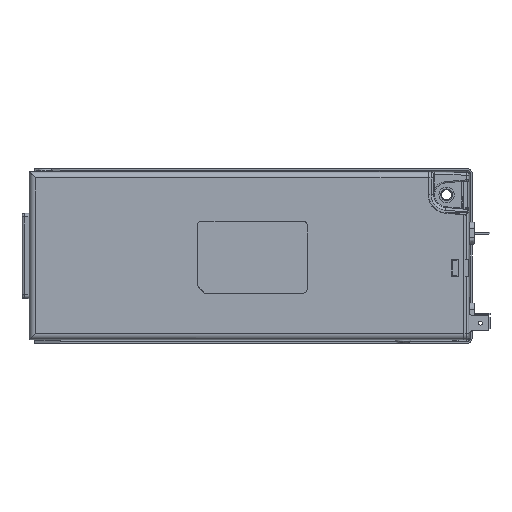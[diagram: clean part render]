
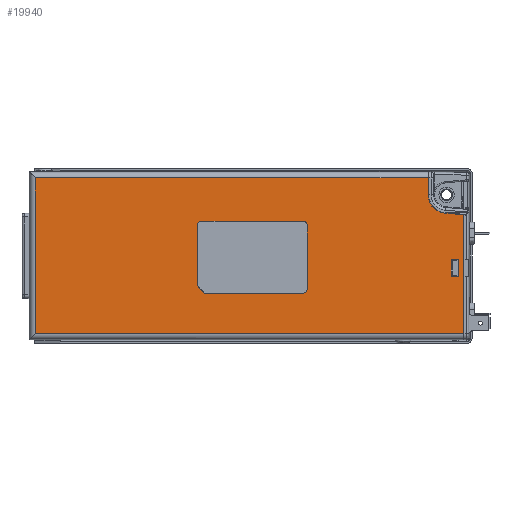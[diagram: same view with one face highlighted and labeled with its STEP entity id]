
A CAD part, top view. The second image highlights one B-rep face of the part: STEP entity #19940.
In plain terms, the highlighted planar face has unit normal (0, 0, 1).
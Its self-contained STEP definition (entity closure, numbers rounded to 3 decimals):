
#518=FACE_BOUND('',#2684,.T.);
#519=FACE_BOUND('',#2685,.T.);
#699=CIRCLE('',#21102,2.);
#701=CIRCLE('',#21106,2.);
#703=CIRCLE('',#21110,2.);
#704=CIRCLE('',#21116,7.7);
#1574=FACE_OUTER_BOUND('',#2683,.T.);
#2683=EDGE_LOOP('',(#12608,#12609,#12610,#12611,#12612,#12613,#12614,#12615));
#2684=EDGE_LOOP('',(#12616,#12617,#12618,#12619));
#2685=EDGE_LOOP('',(#12620,#12621,#12622,#12623,#12624,#12625,#12626,#12627,
#12628,#12629));
#3938=LINE('',#29039,#5873);
#3942=LINE('',#29051,#5877);
#3946=LINE('',#29062,#5881);
#3950=LINE('',#29070,#5885);
#3953=LINE('',#29074,#5888);
#3954=LINE('',#29079,#5889);
#3955=LINE('',#29081,#5890);
#3956=LINE('',#29083,#5891);
#3957=LINE('',#29085,#5892);
#3958=LINE('',#29087,#5893);
#3959=LINE('',#29091,#5894);
#3960=LINE('',#29092,#5895);
#3961=LINE('',#29095,#5896);
#3962=LINE('',#29097,#5897);
#3963=LINE('',#29099,#5898);
#3964=LINE('',#29100,#5899);
#3965=LINE('',#29101,#5900);
#3966=LINE('',#29102,#5901);
#5873=VECTOR('',#23150,10.);
#5877=VECTOR('',#23162,10.);
#5881=VECTOR('',#23174,10.);
#5885=VECTOR('',#23180,10.);
#5888=VECTOR('',#23185,10.);
#5889=VECTOR('',#23190,10.);
#5890=VECTOR('',#23191,10.);
#5891=VECTOR('',#23192,10.);
#5892=VECTOR('',#23193,10.);
#5893=VECTOR('',#23194,10.);
#5894=VECTOR('',#23197,10.);
#5895=VECTOR('',#23198,10.);
#5896=VECTOR('',#23199,10.);
#5897=VECTOR('',#23200,10.);
#5898=VECTOR('',#23201,10.);
#5899=VECTOR('',#23202,10.);
#5900=VECTOR('',#23203,10.);
#5901=VECTOR('',#23204,10.);
#7840=VERTEX_POINT('',#29016);
#7844=VERTEX_POINT('',#29023);
#7845=VERTEX_POINT('',#29025);
#7848=VERTEX_POINT('',#29032);
#7849=VERTEX_POINT('',#29034);
#7850=VERTEX_POINT('',#29038);
#7853=VERTEX_POINT('',#29046);
#7854=VERTEX_POINT('',#29050);
#7857=VERTEX_POINT('',#29058);
#7860=VERTEX_POINT('',#29069);
#7861=VERTEX_POINT('',#29077);
#7862=VERTEX_POINT('',#29078);
#7863=VERTEX_POINT('',#29080);
#7864=VERTEX_POINT('',#29082);
#7865=VERTEX_POINT('',#29084);
#7866=VERTEX_POINT('',#29086);
#7867=VERTEX_POINT('',#29088);
#7868=VERTEX_POINT('',#29090);
#7869=VERTEX_POINT('',#29093);
#7870=VERTEX_POINT('',#29094);
#7871=VERTEX_POINT('',#29096);
#7872=VERTEX_POINT('',#29098);
#9663=EDGE_CURVE('',#7849,#7848,#699,.T.);
#9665=EDGE_CURVE('',#7850,#7849,#3938,.T.);
#9669=EDGE_CURVE('',#7853,#7850,#701,.T.);
#9671=EDGE_CURVE('',#7854,#7853,#3942,.T.);
#9675=EDGE_CURVE('',#7857,#7854,#703,.T.);
#9677=EDGE_CURVE('',#7840,#7857,#3946,.T.);
#9681=EDGE_CURVE('',#7860,#7844,#3950,.T.);
#9684=EDGE_CURVE('',#7848,#7860,#3953,.T.);
#9685=EDGE_CURVE('',#7861,#7862,#3954,.T.);
#9686=EDGE_CURVE('',#7862,#7863,#3955,.T.);
#9687=EDGE_CURVE('',#7864,#7863,#3956,.T.);
#9688=EDGE_CURVE('',#7865,#7864,#3957,.T.);
#9689=EDGE_CURVE('',#7865,#7866,#3958,.T.);
#9690=EDGE_CURVE('',#7866,#7867,#704,.T.);
#9691=EDGE_CURVE('',#7867,#7868,#3959,.T.);
#9692=EDGE_CURVE('',#7868,#7861,#3960,.T.);
#9693=EDGE_CURVE('',#7869,#7870,#3961,.T.);
#9694=EDGE_CURVE('',#7870,#7871,#3962,.T.);
#9695=EDGE_CURVE('',#7871,#7872,#3963,.T.);
#9696=EDGE_CURVE('',#7872,#7869,#3964,.T.);
#9697=EDGE_CURVE('',#7844,#7845,#3965,.T.);
#9698=EDGE_CURVE('',#7845,#7840,#3966,.T.);
#12608=ORIENTED_EDGE('',*,*,#9685,.T.);
#12609=ORIENTED_EDGE('',*,*,#9686,.T.);
#12610=ORIENTED_EDGE('',*,*,#9687,.F.);
#12611=ORIENTED_EDGE('',*,*,#9688,.F.);
#12612=ORIENTED_EDGE('',*,*,#9689,.T.);
#12613=ORIENTED_EDGE('',*,*,#9690,.T.);
#12614=ORIENTED_EDGE('',*,*,#9691,.T.);
#12615=ORIENTED_EDGE('',*,*,#9692,.T.);
#12616=ORIENTED_EDGE('',*,*,#9693,.T.);
#12617=ORIENTED_EDGE('',*,*,#9694,.T.);
#12618=ORIENTED_EDGE('',*,*,#9695,.T.);
#12619=ORIENTED_EDGE('',*,*,#9696,.T.);
#12620=ORIENTED_EDGE('',*,*,#9677,.T.);
#12621=ORIENTED_EDGE('',*,*,#9675,.T.);
#12622=ORIENTED_EDGE('',*,*,#9671,.T.);
#12623=ORIENTED_EDGE('',*,*,#9669,.T.);
#12624=ORIENTED_EDGE('',*,*,#9665,.T.);
#12625=ORIENTED_EDGE('',*,*,#9663,.T.);
#12626=ORIENTED_EDGE('',*,*,#9684,.T.);
#12627=ORIENTED_EDGE('',*,*,#9681,.T.);
#12628=ORIENTED_EDGE('',*,*,#9697,.T.);
#12629=ORIENTED_EDGE('',*,*,#9698,.T.);
#18218=PLANE('',#21115);
#19940=ADVANCED_FACE('',(#1574,#518,#519),#18218,.T.);
#21102=AXIS2_PLACEMENT_3D('',#29035,#23145,#23146);
#21106=AXIS2_PLACEMENT_3D('',#29047,#23157,#23158);
#21110=AXIS2_PLACEMENT_3D('',#29059,#23169,#23170);
#21115=AXIS2_PLACEMENT_3D('',#29076,#23188,#23189);
#21116=AXIS2_PLACEMENT_3D('',#29089,#23195,#23196);
#23145=DIRECTION('center_axis',(0.,0.,
-1.));
#23146=DIRECTION('ref_axis',(0.707,-0.707,0.));
#23150=DIRECTION('',(0.,-1.,0.));
#23157=DIRECTION('center_axis',(0.,0.,
-1.));
#23158=DIRECTION('ref_axis',(0.707,0.707,0.));
#23162=DIRECTION('',(1.,0.,0.));
#23169=DIRECTION('center_axis',(0.,0.,
-1.));
#23170=DIRECTION('ref_axis',(-0.707,0.707,0.));
#23174=DIRECTION('',(0.,1.,0.));
#23180=DIRECTION('',(-0.707,0.707,0.));
#23185=DIRECTION('',(-1.,0.,0.));
#23188=DIRECTION('center_axis',(0.,0.,
1.));
#23189=DIRECTION('ref_axis',(0.,-1.,0.));
#23190=DIRECTION('',(0.,-1.,0.));
#23191=DIRECTION('',(1.,0.,0.));
#23192=DIRECTION('',(0.,-1.,0.));
#23193=DIRECTION('',(0.676,-0.737,0.));
#23194=DIRECTION('',(-0.996,0.087,0.));
#23195=DIRECTION('center_axis',(0.,0.,
-1.));
#23196=DIRECTION('ref_axis',(-1.,0.,0.));
#23197=DIRECTION('',(0.,1.,0.));
#23198=DIRECTION('',(-1.,0.,0.));
#23199=DIRECTION('',(-1.,0.,0.));
#23200=DIRECTION('',(0.,1.,0.));
#23201=DIRECTION('',(1.,0.,0.));
#23202=DIRECTION('',(0.,-1.,0.));
#23203=DIRECTION('',(-0.707,0.707,0.));
#23204=DIRECTION('',(0.,1.,0.));
#29016=CARTESIAN_POINT('',(-20.,-9.025,34.9));
#29023=CARTESIAN_POINT('',(-17.525,-15.,34.9));
#29025=CARTESIAN_POINT('',(-20.,-12.525,34.9));
#29032=CARTESIAN_POINT('',(24.,-15.525,34.9));
#29034=CARTESIAN_POINT('',(26.,-13.525,34.9));
#29035=CARTESIAN_POINT('Origin',(24.,-13.525,34.9));
#29038=CARTESIAN_POINT('',(26.,12.475,34.9));
#29039=CARTESIAN_POINT('',(26.,7.237,34.9));
#29046=CARTESIAN_POINT('',(24.,14.475,34.9));
#29047=CARTESIAN_POINT('Origin',(24.,12.475,34.9));
#29050=CARTESIAN_POINT('',(-18.,14.475,34.9));
#29051=CARTESIAN_POINT('',(-9.75,14.475,34.9));
#29058=CARTESIAN_POINT('',(-20.,12.475,34.9));
#29059=CARTESIAN_POINT('Origin',(-18.,12.475,34.9));
#29062=CARTESIAN_POINT('',(-20.,-7.763,34.9));
#29069=CARTESIAN_POINT('',(-17.,-15.525,34.9));
#29070=CARTESIAN_POINT('',(-17.256,-15.269,34.9));
#29074=CARTESIAN_POINT('',(13.25,-15.525,34.9));
#29076=CARTESIAN_POINT('Origin',(0.5,0.,
34.9));
#29077=CARTESIAN_POINT('',(-87.5,32.5,34.9));
#29078=CARTESIAN_POINT('',(-87.5,-32.5,34.9));
#29079=CARTESIAN_POINT('',(-87.5,-16.25,34.9));
#29080=CARTESIAN_POINT('',(91.,-32.5,34.9));
#29081=CARTESIAN_POINT('',(-44.75,-32.5,34.9));
#29082=CARTESIAN_POINT('',(91.,16.658,34.9));
#29083=CARTESIAN_POINT('',(91.,35.,34.9));
#29084=CARTESIAN_POINT('',(90.502,17.202,34.9));
#29085=CARTESIAN_POINT('',(74.371,34.805,34.9));
#29086=CARTESIAN_POINT('',(83.329,17.829,34.9));
#29087=CARTESIAN_POINT('',(46.839,21.022,34.9));
#29088=CARTESIAN_POINT('',(76.3,25.5,34.9));
#29089=CARTESIAN_POINT('Origin',(84.,25.5,34.9));
#29090=CARTESIAN_POINT('',(76.3,32.5,34.9));
#29091=CARTESIAN_POINT('',(76.3,12.75,34.9));
#29092=CARTESIAN_POINT('',(45.75,32.5,34.9));
#29093=CARTESIAN_POINT('',(89.,-8.5,34.9));
#29094=CARTESIAN_POINT('',(86.,-8.5,34.9));
#29095=CARTESIAN_POINT('',(44.75,-8.5,34.9));
#29096=CARTESIAN_POINT('',(86.,-1.5,34.9));
#29097=CARTESIAN_POINT('',(86.,-4.25,34.9));
#29098=CARTESIAN_POINT('',(89.,-1.5,34.9));
#29099=CARTESIAN_POINT('',(43.25,-1.5,34.9));
#29100=CARTESIAN_POINT('',(89.,-0.75,34.9));
#29101=CARTESIAN_POINT('',(-16.769,-15.756,34.9));
#29102=CARTESIAN_POINT('',(-20.,-6.263,34.9));
